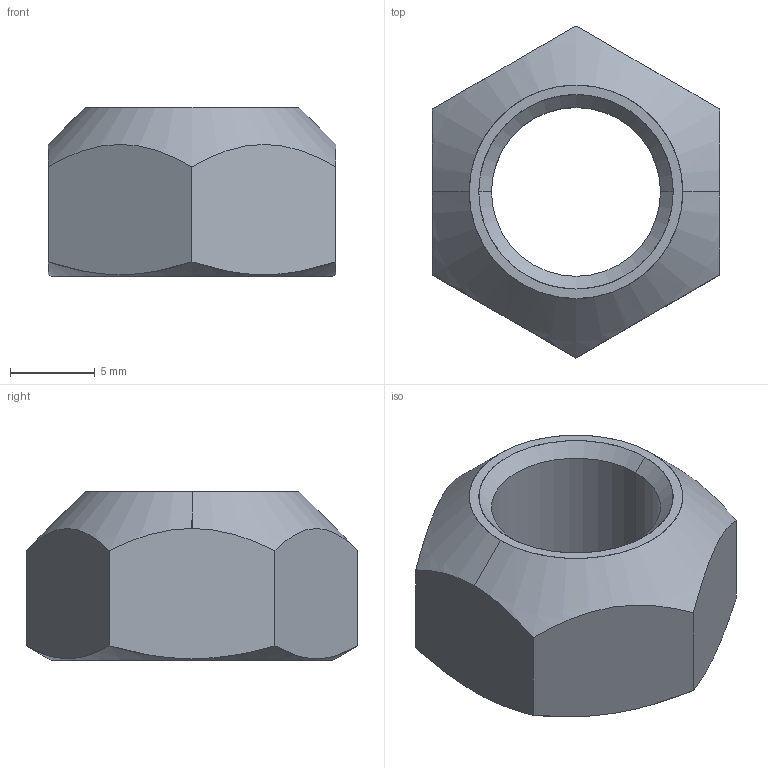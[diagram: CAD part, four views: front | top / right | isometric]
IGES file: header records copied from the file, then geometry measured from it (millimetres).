
Start section: SolidWorks IGES file using analytic representation for surfaces
Global section: file name: C:\Users\liam_\OneDrive\Documents\WORK\Work for WixRoyd\Job Files\J-00021 - Matt Davis CAD Checking\04. CAD Drawings\automotion20190729\P0308.ZP_v2\P0308.ZP_v2_20190913_IGES\P0308.100-ZP.igs; native system: SolidWorks 2017; preprocessor: SolidWorks 2017; author: liam_; date: 190913.214042; units: millimetre
Bounding box: 17 x 19.63 x 10 mm (x, y, z)
Surface area: 1100.4 mm2 (no closed solid volume)
Topology: 0 solids, 0 shells, 18 faces, 358 edges, 358 vertices
Faces by surface type: revolution 10, bspline 8
